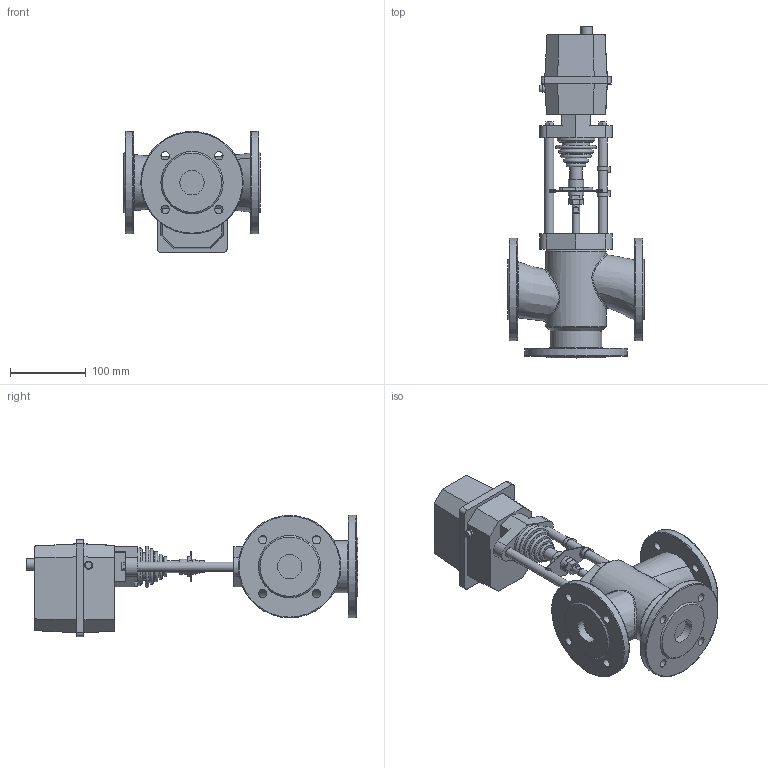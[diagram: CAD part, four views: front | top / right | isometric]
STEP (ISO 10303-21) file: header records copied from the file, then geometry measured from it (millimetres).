
FILE_DESCRIPTION(/* description */ (''),/* implementation_level */ '2;1');
FILE_NAME(/* name */ 'D:\Работа\work by\2017.01.17. клапаны для КПСР 3-хходоввые\Готовые файлы\ST mini\iges\ду 32.stp',/* time_stamp */ '2017-02-19T17:11:32+03:00',/* author */ ('Admin'),/* organization */ ('unknown'),/* preprocessor_version */ 'ST-DEVELOPER v16.1',/* originating_system */ 'Autodesk Inventor 2016',/* authorisation */ '');
FILE_SCHEMA (('AUTOMOTIVE_DESIGN { 1 0 10303 214 3 1 1 }'));
Length unit declared in the file: millimetre
Products named in the file (1): ду 32
Bounding box: 180 x 437.06 x 159.61 mm (x, y, z)
Volume: 2581114 mm3; surface area: 249451.6 mm2
Topology: 1 solids, 2 shells, 242 faces, 592 edges, 387 vertices
Faces by surface type: plane 151, cylinder 61, torus 15, bspline 8, cone 7
Full cylindrical faces by diameter (mm): 8.5 x1, 8.89 x1, 9.6 x1, 10 x2, 10.272 x1, 11 x12, 12 x4, 14.958 x1, 16 x1, 20 x2, 22.287 x1, 29.215 x1, 32 x3, 36 x1, 36.144 x1, 40 x1, 43.072 x1, 50 x1, 68.4 x1, 79.2 x1, 135 x3
Entity records: 8248 total; most frequent: CARTESIAN_POINT 2692, DIRECTION 1136, ORIENTED_EDGE 1024, EDGE_CURVE 512, AXIS2_PLACEMENT_3D 409, EDGE_LOOP 376, VERTEX_POINT 372, LINE 318
